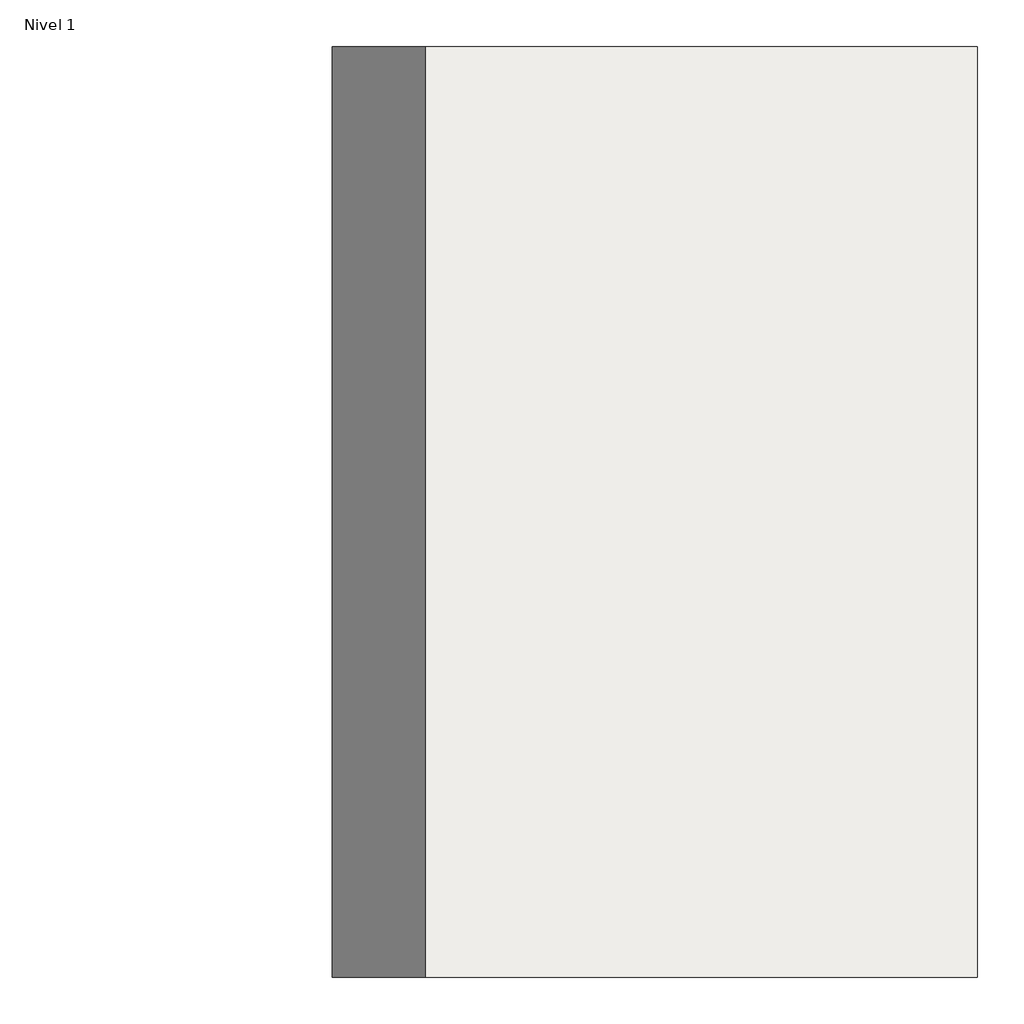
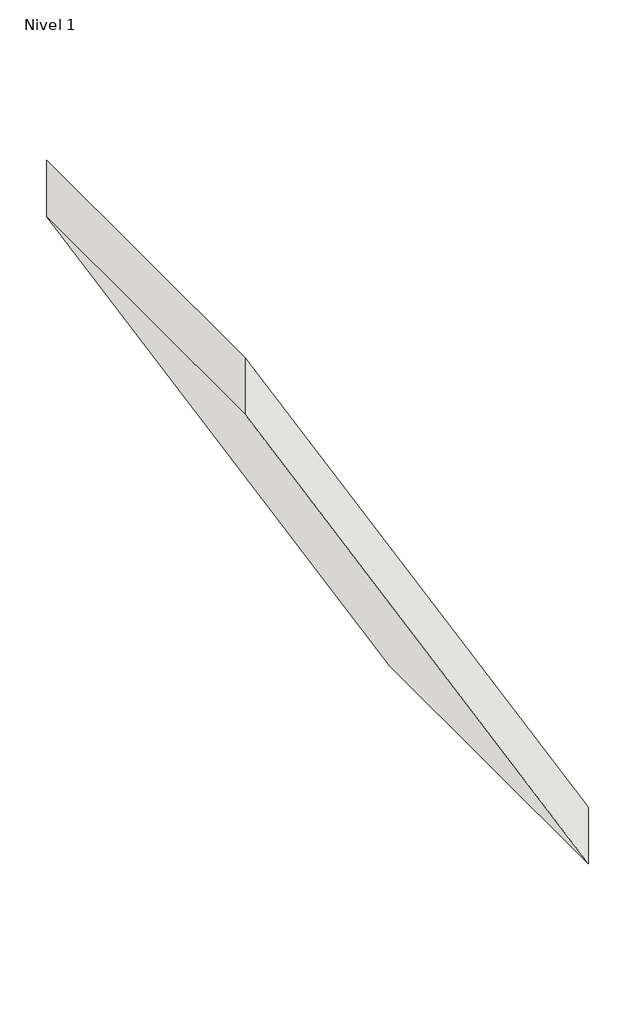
# One storey: 1 roof.
"""IFC4 building model written with IfcOpenShell, lengths in millimetres."""

from ifc_helpers import new_model, si_unit, frame, origin, place, context, project, spatial, polyline, outline, extrude, element, save

model = new_model("IFC4")

# Units and contexts
model_context = context("Model", 3, world=origin())
ifc_project = project(units=[si_unit("LENGTHUNIT", "METRE", prefix="MILLI")], contexts=[model_context])

# Site, building, storey
site = spatial("IfcSite", under=ifc_project)
building = spatial("IfcBuilding", under=site)
storey = spatial("IfcBuildingStorey", under=building, Name="Nivel 1", Elevation=0.0)

# Roof
placement = place(None, origin())
element("IfcRoof", 1, ObjectType="Teja + Aisl. poliuretano + Pintura", at=placement, inside=storey, context=model_context, shape_type="SweptSolid", body=[
    extrude(outline(polyline([(174.0, -3013.2553136), (1906.0508076, -4013.2553136), (1732.0508076, -4013.2553136), (0.0, -3013.2553136), (174.0, -3013.2553136)])), frame((0.0, 3631.8256744, 0.0), z_axis=(0.0, 1.0, 0.0), x_axis=(0.0, 0.0, 1.0)), (0.0, 0.0, 1.0), 1000.0),
])

save(model, "model.ifc")
